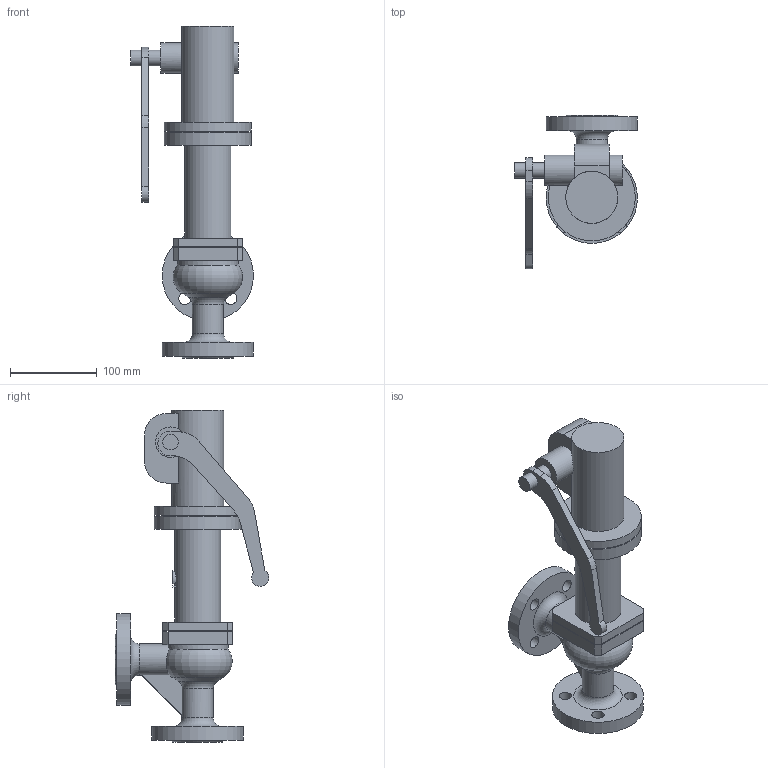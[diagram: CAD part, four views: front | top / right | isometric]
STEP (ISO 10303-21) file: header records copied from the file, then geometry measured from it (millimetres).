
FILE_DESCRIPTION(('STEP AP203'), '1');
FILE_NAME('Êëàïàí ïðåäîõðàíèòåëüíûé ñðåäíåïîäüåìíûé SV1F 20x20', '', ('UNSPECIFIED'), ('UNSPECIFIED'), 'ASCON STEP Converter 1.6', 'ASCON Math Kernel', '');
FILE_SCHEMA(('CONFIG_CONTROL_DESIGN'));
Length unit declared in the file: millimetre
Bounding box: 141.5 x 177.13 x 382 mm (x, y, z)
Volume: 1282698.9 mm3; surface area: 228088.9 mm2
Topology: 1 solids, 3 shells, 121 faces, 316 edges, 210 vertices
Faces by surface type: plane 69, cylinder 44, torus 5, cone 3
Full cylindrical faces by diameter (mm): 14 x8, 18 x2, 20 x3, 35 x2, 36 x2, 39 x1, 44 x1, 53 x1, 57 x1, 60 x1, 80 x1, 100 x2, 105 x2
Entity records: 6324 total; most frequent: CARTESIAN_POINT 2416, DIRECTION 598, ORIENTED_EDGE 562, EDGE_CURVE 281, AXIS2_PLACEMENT_3D 236, VERTEX_POINT 210, EDGE_LOOP 181, FACE_BOUND 134
